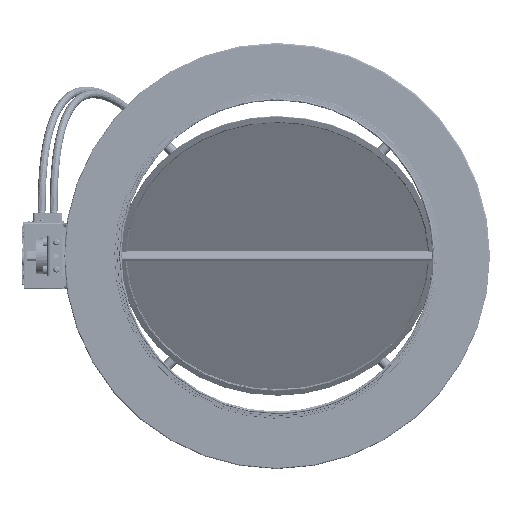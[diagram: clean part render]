
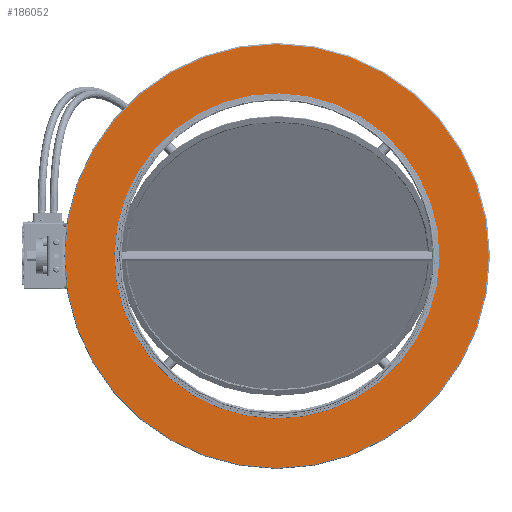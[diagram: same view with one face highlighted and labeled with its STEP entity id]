
A CAD part, left-side view. The second image highlights one B-rep face of the part: STEP entity #186052.
In plain terms, the highlighted planar face has unit normal (-1, 0, 0) as drawn and (0, -1, 0) by its records, which use the part's own axes.
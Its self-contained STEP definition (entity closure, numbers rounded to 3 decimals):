
#8921 = ORIENTED_EDGE ( 'NONE', *, *, #328695, .T. ) ;
#9731 = DIRECTION ( 'NONE',  ( 0., -1., 0. ) ) ;
#14511 = EDGE_CURVE ( 'NONE', #53084, #53084, #216247, .T. ) ;
#18701 = CARTESIAN_POINT ( 'NONE',  ( -50., 0., 0. ) ) ;
#40505 = DIRECTION ( 'NONE',  ( 1., 0., 0. ) ) ;
#44299 = CARTESIAN_POINT ( 'NONE',  ( -50., 0., 0. ) ) ;
#53084 = VERTEX_POINT ( 'NONE', #322153 ) ;
#74559 = DIRECTION ( 'NONE',  ( 1., 0., 0. ) ) ;
#90731 = AXIS2_PLACEMENT_3D ( 'NONE', #263219, #178444, #170859 ) ;
#95187 = CIRCLE ( 'NONE', #309982, 211.5 ) ;
#99516 = CARTESIAN_POINT ( 'NONE',  ( 161.5, 0., 0. ) ) ;
#132310 = DIRECTION ( 'NONE',  ( 0., -1., 0. ) ) ;
#170859 = DIRECTION ( 'NONE',  ( 1., 0., 0. ) ) ;
#178444 = DIRECTION ( 'NONE',  ( 0., -1., 0. ) ) ;
#180328 = VERTEX_POINT ( 'NONE', #99516 ) ;
#186052 = ADVANCED_FACE ( 'NONE', ( #324531, #261302 ), #320729, .T. ) ;
#216247 = CIRCLE ( 'NONE', #375874, 157.5 ) ;
#261302 = FACE_BOUND ( 'NONE', #371827, .T. ) ;
#262285 = ORIENTED_EDGE ( 'NONE', *, *, #14511, .F. ) ;
#263219 = CARTESIAN_POINT ( 'NONE',  ( 0., 0., 0. ) ) ;
#309982 = AXIS2_PLACEMENT_3D ( 'NONE', #18701, #132310, #74559 ) ;
#320729 = PLANE ( 'NONE',  #90731 ) ;
#322153 = CARTESIAN_POINT ( 'NONE',  ( 107.5, 0., 0. ) ) ;
#324531 = FACE_OUTER_BOUND ( 'NONE', #375553, .T. ) ;
#328695 = EDGE_CURVE ( 'NONE', #180328, #180328, #95187, .T. ) ;
#371827 = EDGE_LOOP ( 'NONE', ( #262285 ) ) ;
#375553 = EDGE_LOOP ( 'NONE', ( #8921 ) ) ;
#375874 = AXIS2_PLACEMENT_3D ( 'NONE', #44299, #9731, #40505 ) ;
